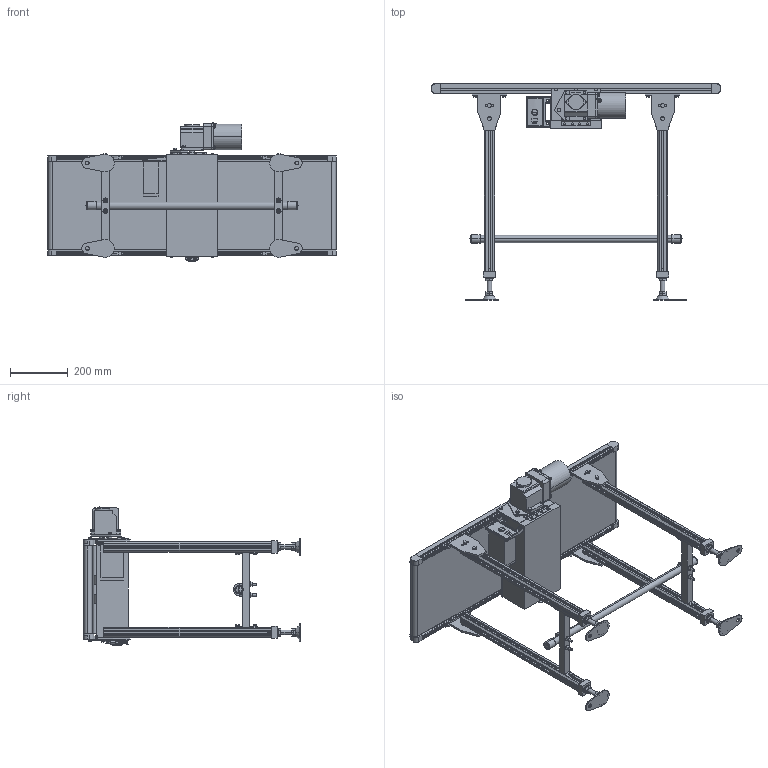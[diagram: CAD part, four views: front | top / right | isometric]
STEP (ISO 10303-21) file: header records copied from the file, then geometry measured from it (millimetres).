
FILE_DESCRIPTION (( 'STEP AP214' ), '1' );
FILE_NAME ('MMJ-HS-304-300-100-IV-75-O.STEP', '2024-06-20T09:22:03', ( '' ), ( '' ), 'SwSTEP 2.0', 'SolidWorks 2017', '' );
FILE_SCHEMA (( 'AUTOMOTIVE_DESIGN' ));
Length unit declared in the file: millimetre
Products named in the file (1): MMJ-HS-304-300-100-IV-75-O
Bounding box: 1000 x 751.1 x 478.73 mm (x, y, z)
Volume: 15707544.4 mm3; surface area: 3787166.9 mm2
Topology: 42 solids, 42 shells, 2207 faces, 5544 edges, 3534 vertices
Faces by surface type: plane 1544, cylinder 533, cone 56, bspline 34, torus 34, sphere 6
Entity records: 68956 total; most frequent: CARTESIAN_POINT 14195, DIRECTION 11149, ORIENTED_EDGE 11040, EDGE_CURVE 5520, VECTOR 3929, LINE 3929, AXIS2_PLACEMENT_3D 3610, VERTEX_POINT 3534
